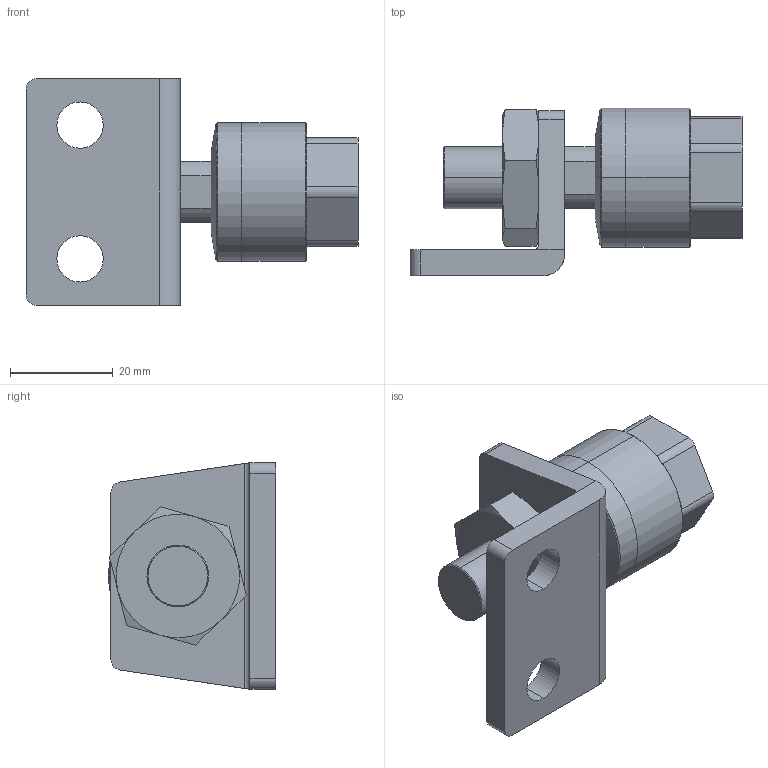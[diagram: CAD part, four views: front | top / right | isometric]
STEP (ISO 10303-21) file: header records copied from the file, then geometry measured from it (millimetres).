
FILE_DESCRIPTION (( 'STEP AP203' ), '1' );
FILE_NAME ('FCM12A-1.25-L.STEP', '2016-04-14T01:57:53', ( '' ), ( '' ), 'SwSTEP 2.0', 'SolidWorks 2014', '' );
FILE_SCHEMA (( 'CONFIG_CONTROL_DESIGN' ));
Length unit declared in the file: millimetre
Products named in the file (4): FCM12A-L; FCM12A-1.25; FCM12A-1.25-L; M12x1.25-7mm(24)
Assembly tree (3 placements, depth 2):
  FCM12A-1.25-L
    FCM12A-1.25
    M12x1.25-7mm(24)
    FCM12A-L
Bounding box: 64.5 x 32.5 x 44 mm (x, y, z)
Volume: 29835.6 mm3; surface area: 12174.6 mm2
Topology: 3 solids, 3 shells, 90 faces, 214 edges, 131 vertices
Faces by surface type: plane 36, cylinder 32, torus 12, cone 10
Entity records: 3072 total; most frequent: CARTESIAN_POINT 565, DIRECTION 460, ORIENTED_EDGE 424, EDGE_CURVE 212, AXIS2_PLACEMENT_3D 178, VERTEX_POINT 131, VECTOR 104, LINE 104
